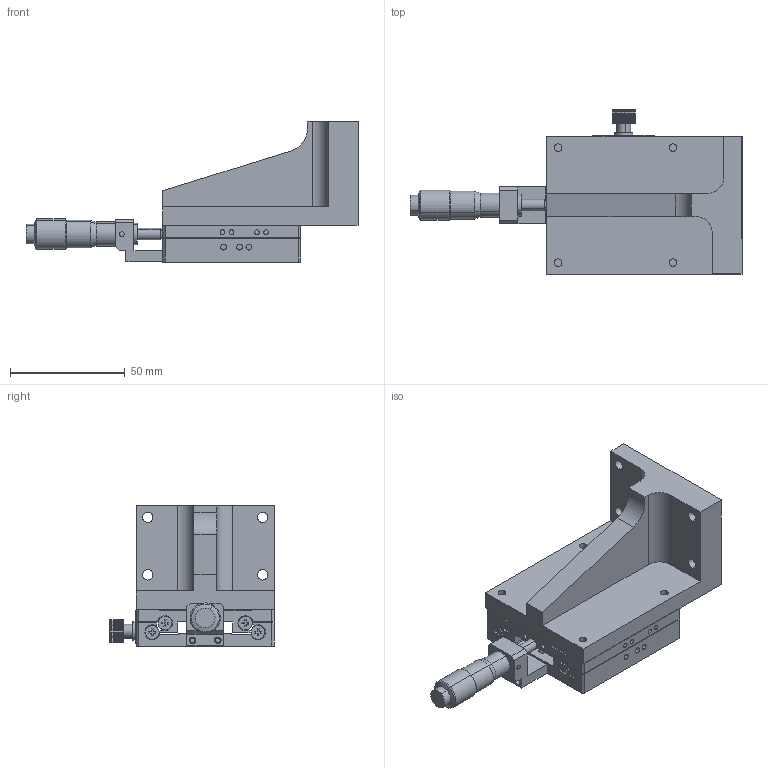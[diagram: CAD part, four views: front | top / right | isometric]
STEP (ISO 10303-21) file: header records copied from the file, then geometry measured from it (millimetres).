
FILE_DESCRIPTION (( 'STEP AP203' ), '1' );
FILE_NAME ('JZ-60C-16H.STEP', '2023-03-15T10:38:00', ( '微软用户' ), ( '微软中国' ), 'SwSTEP 2.0', 'SolidWorks 2018', '' );
FILE_SCHEMA (( 'CONFIG_CONTROL_DESIGN' ));
Length unit declared in the file: millimetre
Products named in the file (10): JZ-60C-16H; JALB-72-R(0-13埴芛ロ煦喜); JX-40-05 癹弇え; JX-40-06 C千分尺固定块; JX-60-01 奻裔; JCX-80(H18)菜え; JX-60-02 狟裔; JX-60蹟佪; FC-NB-10 内六角滚花螺丝 （直纹）; JX-60-02 L啣
Assembly tree (16 placements, depth 2):
  JZ-60C-16H
    JX-60-02 狟裔
    JX-60-01 奻裔
    JX-60蹟佪  x8
    JX-40-06 C千分尺固定块
    JALB-72-R(0-13埴芛ロ煦喜)
    FC-NB-10 内六角滚花螺丝 （直纹）
    JCX-80(H18)菜え
    JX-40-05 癹弇え
    JX-60-02 L啣
Bounding box: 144.5 x 71.5 x 61 mm (x, y, z)
Volume: 131126.4 mm3; surface area: 50148.5 mm2
Topology: 16 solids, 16 shells, 715 faces, 1836 edges, 1209 vertices
Faces by surface type: cylinder 412, plane 277, cone 22, sphere 4
Entity records: 19638 total; most frequent: DIRECTION 3464, CARTESIAN_POINT 3311, ORIENTED_EDGE 2984, EDGE_CURVE 1492, AXIS2_PLACEMENT_3D 1386, VERTEX_POINT 985, CIRCLE 792, EDGE_LOOP 713
